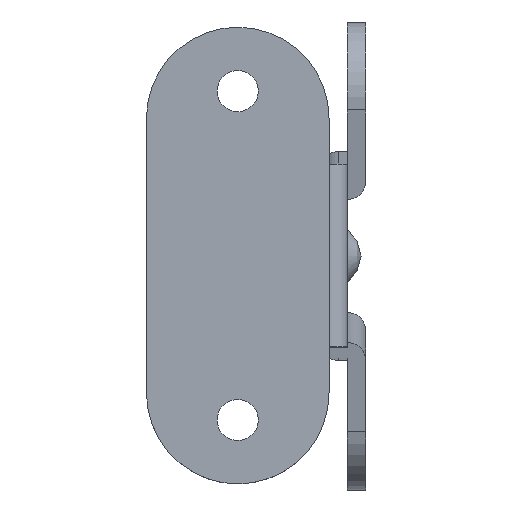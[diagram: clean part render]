
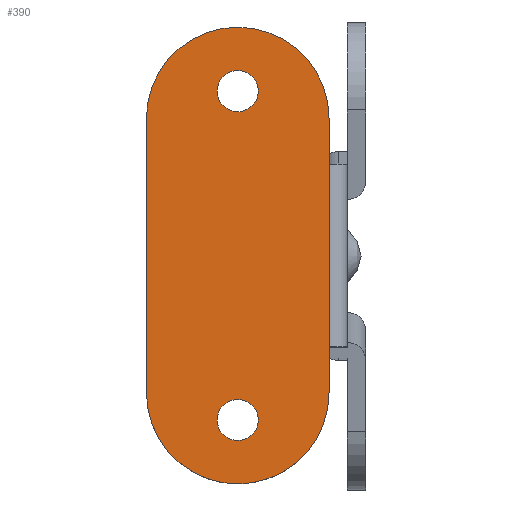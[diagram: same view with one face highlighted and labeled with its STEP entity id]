
A CAD part, left-side view. The second image highlights one B-rep face of the part: STEP entity #390.
In plain terms, the highlighted planar face has unit normal (-1, 0, 0.003) as drawn and (0, -1, 0) by its records, which use the part's own axes.
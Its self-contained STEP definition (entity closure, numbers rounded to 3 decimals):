
#116=CARTESIAN_POINT('',(-18.0,0.,2.25));
#117=VERTEX_POINT('',#116);
#118=CARTESIAN_POINT('',(-18.0,0.,0.));
#119=DIRECTION('',(0.0,-1.0,0.0));
#120=DIRECTION('',(0.0,0.0,1.0));
#121=AXIS2_PLACEMENT_3D('',#118,#119,#120);
#122=CIRCLE('',#121,2.25);
#123=EDGE_CURVE('',#117,#117,#122,.T.);
#164=CARTESIAN_POINT('',(18.0,0.0,2.25));
#165=VERTEX_POINT('',#164);
#166=CARTESIAN_POINT('',(18.0,0.0,0.0));
#167=DIRECTION('',(0.0,1.0,0.0));
#168=DIRECTION('',(0.0,0.0,1.0));
#169=AXIS2_PLACEMENT_3D('',#166,#167,#168);
#170=CIRCLE('',#169,2.25);
#171=EDGE_CURVE('',#165,#165,#170,.T.);
#212=CARTESIAN_POINT('',(-15.,0.,10.));
#213=VERTEX_POINT('',#212);
#214=CARTESIAN_POINT('',(15.0,0.0,10.0));
#215=VERTEX_POINT('',#214);
#216=CARTESIAN_POINT('',(-15.,0.,10.));
#217=DIRECTION('',(1.0,0.0,0.0));
#218=VECTOR('',#217,30.);
#219=LINE('',#216,#218);
#220=EDGE_CURVE('',#213,#215,#219,.T.);
#252=CARTESIAN_POINT('',(15.,0.0,-10.));
#253=VERTEX_POINT('',#252);
#254=CARTESIAN_POINT('',(15.0,0.0,0.0));
#255=DIRECTION('',(0.0,1.0,0.0));
#256=DIRECTION('',(0.0,0.0,1.0));
#257=AXIS2_PLACEMENT_3D('',#254,#255,#256);
#258=CIRCLE('',#257,10.);
#259=EDGE_CURVE('',#215,#253,#258,.T.);
#285=CARTESIAN_POINT('',(10.,0.0,-10.));
#286=VERTEX_POINT('',#285);
#287=CARTESIAN_POINT('',(15.,0.0,-10.));
#288=DIRECTION('',(-1.0,0.0,0.0));
#289=VECTOR('',#288,5.);
#290=LINE('',#287,#289);
#291=EDGE_CURVE('',#253,#286,#290,.T.);
#351=CARTESIAN_POINT('',(15.0,0.0,0.0));
#352=DIRECTION('',(0.0,1.0,0.0));
#353=DIRECTION('',(0.0,0.0,1.0));
#354=AXIS2_PLACEMENT_3D('',#351,#352,#353);
#355=PLANE('',#354);
#356=ORIENTED_EDGE('',*,*,#220,.F.);
#357=CARTESIAN_POINT('',(-15.,0.,-10.));
#358=VERTEX_POINT('',#357);
#359=CARTESIAN_POINT('',(-15.0,0.,0.));
#360=DIRECTION('',(0.0,-1.0,0.0));
#361=DIRECTION('',(0.0,0.0,1.0));
#362=AXIS2_PLACEMENT_3D('',#359,#360,#361);
#363=CIRCLE('',#362,10.);
#364=EDGE_CURVE('',#213,#358,#363,.T.);
#365=ORIENTED_EDGE('',*,*,#364,.T.);
#366=CARTESIAN_POINT('',(-10.,0.,-10.));
#367=VERTEX_POINT('',#366);
#368=CARTESIAN_POINT('',(-15.,0.,-10.));
#369=DIRECTION('',(1.0,0.0,0.0));
#370=VECTOR('',#369,5.0);
#371=LINE('',#368,#370);
#372=EDGE_CURVE('',#358,#367,#371,.T.);
#373=ORIENTED_EDGE('',*,*,#372,.T.);
#374=CARTESIAN_POINT('',(10.,0.0,-10.));
#375=DIRECTION('',(-1.0,0.0,0.0));
#376=VECTOR('',#375,20.0);
#377=LINE('',#374,#376);
#378=EDGE_CURVE('',#286,#367,#377,.T.);
#379=ORIENTED_EDGE('',*,*,#378,.F.);
#380=ORIENTED_EDGE('',*,*,#291,.F.);
#381=ORIENTED_EDGE('',*,*,#259,.F.);
#382=EDGE_LOOP('',(#356,#365,#373,#379,#380,#381));
#383=FACE_OUTER_BOUND('',#382,.T.);
#384=ORIENTED_EDGE('',*,*,#171,.T.);
#385=EDGE_LOOP('',(#384));
#386=FACE_BOUND('',#385,.T.);
#387=ORIENTED_EDGE('',*,*,#123,.F.);
#388=EDGE_LOOP('',(#387));
#389=FACE_BOUND('',#388,.T.);
#390=ADVANCED_FACE('',(#383,#386,#389),#355,.F.);
